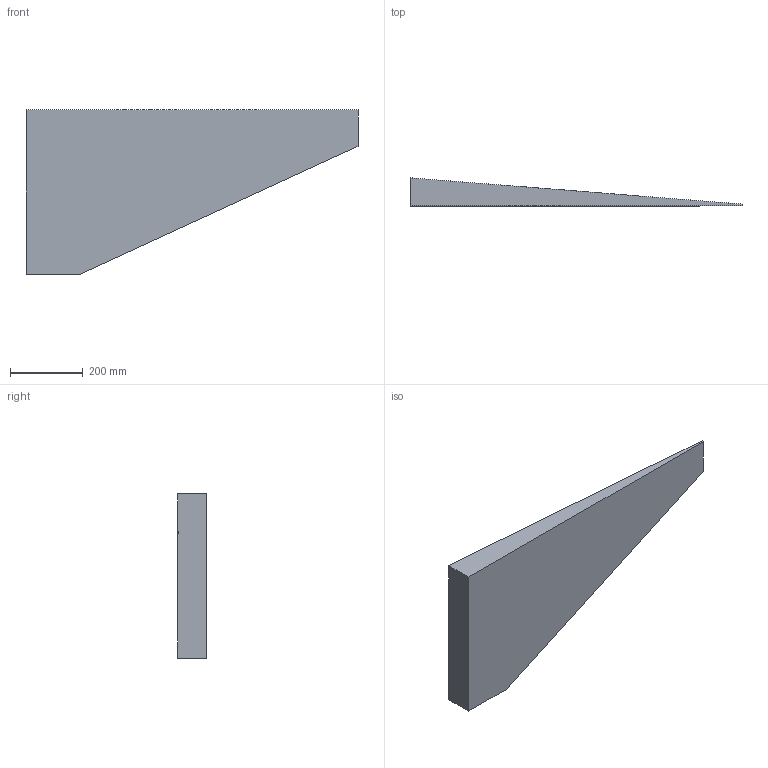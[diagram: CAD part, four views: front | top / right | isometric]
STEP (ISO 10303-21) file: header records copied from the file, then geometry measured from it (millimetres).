
FILE_DESCRIPTION (( 'STEP AP203' ), '1' );
FILE_NAME ('RF3-CP-M.STEP', '2024-03-25T11:08:23', ( '' ), ( '' ), 'SwSTEP 2.0', 'SolidWorks 2021', '' );
FILE_SCHEMA (( 'CONFIG_CONTROL_DESIGN' ));
Length unit declared in the file: millimetre
Products named in the file (1): RF3-CP-M
Bounding box: 910 x 77 x 450 mm (x, y, z)
Volume: 9668562.3 mm3; surface area: 657853.5 mm2
Topology: 1 solids, 1 shells, 104 faces, 273 edges, 181 vertices
Faces by surface type: plane 73, bspline 31
Entity records: 5032 total; most frequent: CARTESIAN_POINT 2598, ORIENTED_EDGE 546, DIRECTION 359, EDGE_CURVE 273, VECTOR 211, LINE 211, VERTEX_POINT 181, EDGE_LOOP 114
